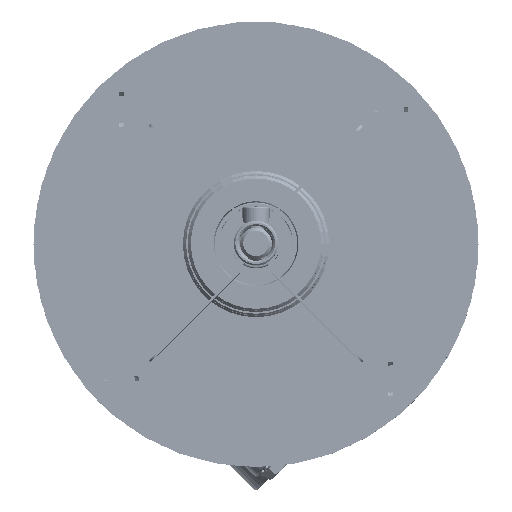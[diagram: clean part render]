
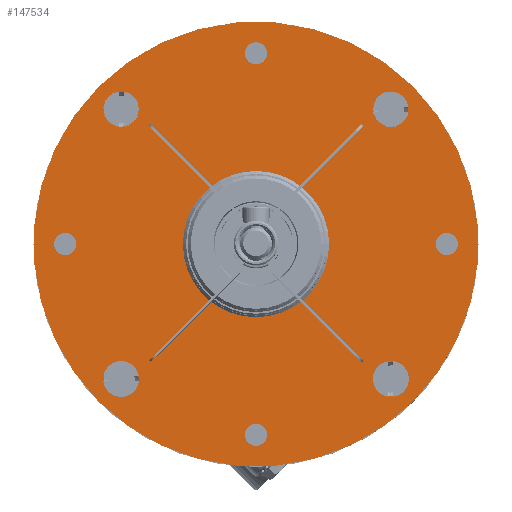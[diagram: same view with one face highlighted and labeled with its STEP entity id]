
A CAD part, top view. The second image highlights one B-rep face of the part: STEP entity #147534.
In plain terms, the highlighted planar face has unit normal (0, 0, 1) as drawn and (0, -1, 0) by its records, which use the part's own axes.
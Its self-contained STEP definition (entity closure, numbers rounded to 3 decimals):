
#10936=PLANE('',#162612);
#11932=FACE_BOUND('',#35938,.T.);
#11933=FACE_BOUND('',#35939,.T.);
#11934=FACE_BOUND('',#35940,.T.);
#11935=FACE_BOUND('',#35941,.T.);
#11936=FACE_BOUND('',#35942,.T.);
#11937=FACE_BOUND('',#35943,.T.);
#11938=FACE_BOUND('',#35944,.T.);
#11939=FACE_BOUND('',#35945,.T.);
#11940=FACE_BOUND('',#35946,.T.);
#17500=CIRCLE('',#162610,5.5);
#17502=CIRCLE('',#162613,70.);
#17503=CIRCLE('',#162614,5.5);
#17504=CIRCLE('',#162615,5.5);
#17505=CIRCLE('',#162616,22.5);
#17506=CIRCLE('',#162617,3.5);
#17507=CIRCLE('',#162618,3.5);
#17508=CIRCLE('',#162619,3.5);
#17509=CIRCLE('',#162620,3.5);
#17510=CIRCLE('',#162621,5.5);
#27490=FACE_OUTER_BOUND('',#35937,.T.);
#35937=EDGE_LOOP('',(#138607));
#35938=EDGE_LOOP('',(#138608));
#35939=EDGE_LOOP('',(#138609));
#35940=EDGE_LOOP('',(#138610));
#35941=EDGE_LOOP('',(#138611));
#35942=EDGE_LOOP('',(#138612));
#35943=EDGE_LOOP('',(#138613));
#35944=EDGE_LOOP('',(#138614));
#35945=EDGE_LOOP('',(#138615));
#35946=EDGE_LOOP('',(#138616));
#76675=VERTEX_POINT('',#277647);
#76677=VERTEX_POINT('',#277653);
#76678=VERTEX_POINT('',#277655);
#76679=VERTEX_POINT('',#277657);
#76680=VERTEX_POINT('',#277659);
#76681=VERTEX_POINT('',#277661);
#76682=VERTEX_POINT('',#277663);
#76683=VERTEX_POINT('',#277665);
#76684=VERTEX_POINT('',#277667);
#76685=VERTEX_POINT('',#277669);
#97347=EDGE_CURVE('',#76675,#76675,#17500,.T.);
#97350=EDGE_CURVE('',#76677,#76677,#17502,.T.);
#97351=EDGE_CURVE('',#76678,#76678,#17503,.T.);
#97352=EDGE_CURVE('',#76679,#76679,#17504,.T.);
#97353=EDGE_CURVE('',#76680,#76680,#17505,.T.);
#97354=EDGE_CURVE('',#76681,#76681,#17506,.T.);
#97355=EDGE_CURVE('',#76682,#76682,#17507,.T.);
#97356=EDGE_CURVE('',#76683,#76683,#17508,.T.);
#97357=EDGE_CURVE('',#76684,#76684,#17509,.T.);
#97358=EDGE_CURVE('',#76685,#76685,#17510,.T.);
#138607=ORIENTED_EDGE('',*,*,#97350,.F.);
#138608=ORIENTED_EDGE('',*,*,#97351,.F.);
#138609=ORIENTED_EDGE('',*,*,#97352,.F.);
#138610=ORIENTED_EDGE('',*,*,#97353,.T.);
#138611=ORIENTED_EDGE('',*,*,#97354,.T.);
#138612=ORIENTED_EDGE('',*,*,#97355,.T.);
#138613=ORIENTED_EDGE('',*,*,#97356,.T.);
#138614=ORIENTED_EDGE('',*,*,#97357,.T.);
#138615=ORIENTED_EDGE('',*,*,#97358,.F.);
#138616=ORIENTED_EDGE('',*,*,#97347,.F.);
#147534=ADVANCED_FACE('',(#27490,#11932,#11933,#11934,#11935,#11936,#11937,
#11938,#11939,#11940),#10936,.F.);
#162610=AXIS2_PLACEMENT_3D('',#277648,#201750,#201751);
#162612=AXIS2_PLACEMENT_3D('',#277652,#201755,#201756);
#162613=AXIS2_PLACEMENT_3D('',#277654,#201757,#201758);
#162614=AXIS2_PLACEMENT_3D('',#277656,#201759,#201760);
#162615=AXIS2_PLACEMENT_3D('',#277658,#201761,#201762);
#162616=AXIS2_PLACEMENT_3D('',#277660,#201763,#201764);
#162617=AXIS2_PLACEMENT_3D('',#277662,#201765,#201766);
#162618=AXIS2_PLACEMENT_3D('',#277664,#201767,#201768);
#162619=AXIS2_PLACEMENT_3D('',#277666,#201769,#201770);
#162620=AXIS2_PLACEMENT_3D('',#277668,#201771,#201772);
#162621=AXIS2_PLACEMENT_3D('',#277670,#201773,#201774);
#201750=DIRECTION('center_axis',(0.,-1.,0.));
#201751=DIRECTION('ref_axis',(1.,0.,0.));
#201755=DIRECTION('center_axis',(0.,1.,0.));
#201756=DIRECTION('ref_axis',(0.,0.,1.));
#201757=DIRECTION('center_axis',(0.,1.,0.));
#201758=DIRECTION('ref_axis',(-1.,0.,0.));
#201759=DIRECTION('center_axis',(0.,-1.,0.));
#201760=DIRECTION('ref_axis',(1.,0.,0.));
#201761=DIRECTION('center_axis',(0.,-1.,0.));
#201762=DIRECTION('ref_axis',(1.,0.,0.));
#201763=DIRECTION('center_axis',(0.,1.,0.));
#201764=DIRECTION('ref_axis',(1.,0.,0.));
#201765=DIRECTION('center_axis',(0.,1.,0.));
#201766=DIRECTION('ref_axis',(1.,0.,0.));
#201767=DIRECTION('center_axis',(0.,1.,0.));
#201768=DIRECTION('ref_axis',(1.,0.,0.));
#201769=DIRECTION('center_axis',(0.,1.,0.));
#201770=DIRECTION('ref_axis',(1.,0.,0.));
#201771=DIRECTION('center_axis',(0.,1.,0.));
#201772=DIRECTION('ref_axis',(1.,0.,0.));
#201773=DIRECTION('center_axis',(0.,-1.,0.));
#201774=DIRECTION('ref_axis',(1.,0.,0.));
#277647=CARTESIAN_POINT('',(-5.5,0.,-60.));
#277648=CARTESIAN_POINT('Origin',(0.,0.,-60.));
#277652=CARTESIAN_POINT('Origin',(0.,0.,0.));
#277653=CARTESIAN_POINT('',(70.,0.,0.));
#277654=CARTESIAN_POINT('Origin',(0.,0.,0.));
#277655=CARTESIAN_POINT('',(54.5,0.,0.));
#277656=CARTESIAN_POINT('Origin',(60.,0.,0.));
#277657=CARTESIAN_POINT('',(-65.5,0.,0.));
#277658=CARTESIAN_POINT('Origin',(-60.,0.,0.));
#277659=CARTESIAN_POINT('',(-22.5,0.,0.));
#277660=CARTESIAN_POINT('Origin',(0.,0.,0.));
#277661=CARTESIAN_POINT('',(38.926,0.,-42.426));
#277662=CARTESIAN_POINT('Origin',(42.426,0.,-42.426));
#277663=CARTESIAN_POINT('',(38.926,0.,42.426));
#277664=CARTESIAN_POINT('Origin',(42.426,0.,42.426));
#277665=CARTESIAN_POINT('',(-45.926,0.,42.426));
#277666=CARTESIAN_POINT('Origin',(-42.426,0.,42.426));
#277667=CARTESIAN_POINT('',(-45.926,0.,-42.426));
#277668=CARTESIAN_POINT('Origin',(-42.426,0.,-42.426));
#277669=CARTESIAN_POINT('',(-5.5,0.,60.));
#277670=CARTESIAN_POINT('Origin',(0.,0.,60.));
